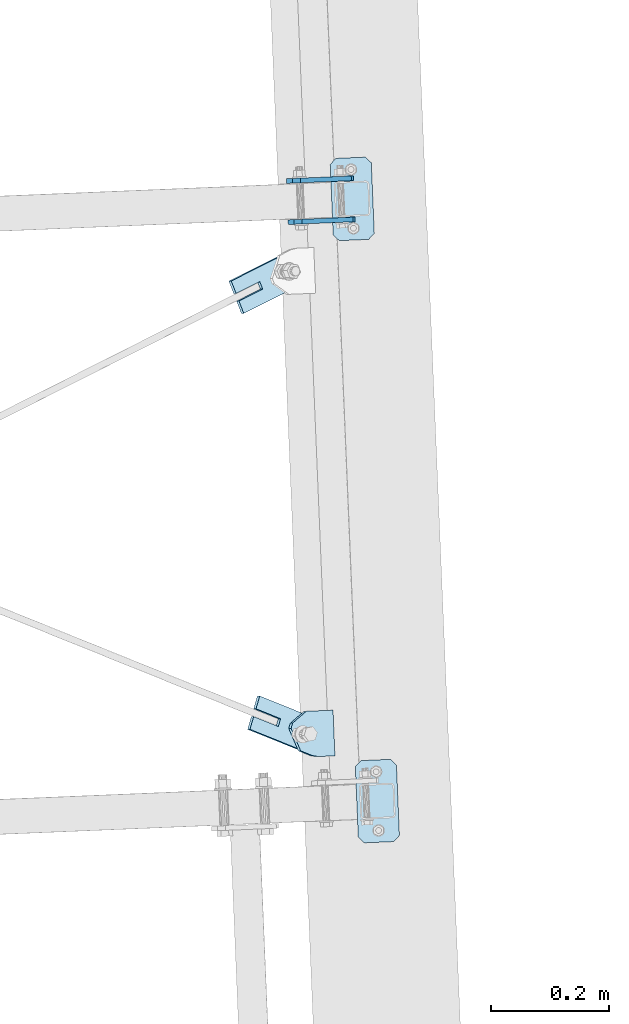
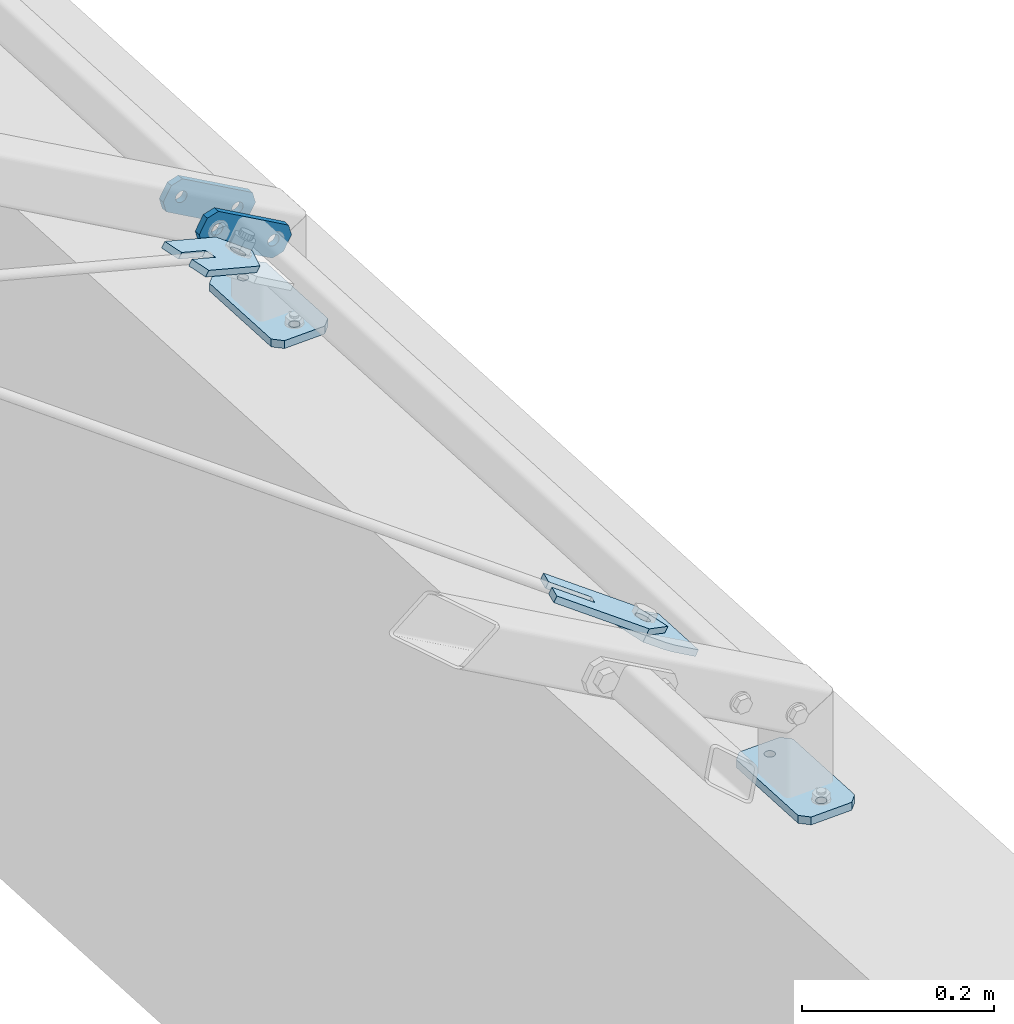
# One storey, part 39 of 288: 7 plates, 36 openings.
"""IFC2X3 building model written with IfcOpenShell, lengths in millimetres."""

from ifc_helpers import new_model, entity, si_unit, converted_unit, point, frame, frame_2d, origin, origin_with_axes, origin_2d_with_axis, place, context, project, spatial, polyline, circle_curve, line_curve, trimmed, segment, composite_curve, circle, outline, extrude, material, layer, layer_set, element, save


model = new_model("IFC2X3")

# Units and contexts
model_context = context("Model", 3, precision=1e-09, world=origin_with_axes())
ifc_project = project(units=[si_unit("LENGTHUNIT", "METRE", prefix="MILLI"), si_unit("AREAUNIT", "SQUARE_METRE"), si_unit("VOLUMEUNIT", "CUBIC_METRE"), converted_unit("PLANEANGLEUNIT", "DEGREE", entity("IfcPlaneAngleMeasure", 0.01745329), si_unit("PLANEANGLEUNIT", "RADIAN"), dimensions=[0, 0, 0, 0, 0, 0, 0])], contexts=[model_context])

# Site, building, storey
site_placement = place(None, origin_with_axes())
site = spatial("IfcSite", under=ifc_project, at=site_placement, Name="Remont ?wietlik?w nad MC w NCPP w Opolu", CompositionType="ELEMENT")
building_placement = place(site_placement, origin_with_axes())
building = spatial("IfcBuilding", under=site, at=building_placement, Name="Konstrukcja 1", CompositionType="ELEMENT")
storey_placement = place(building_placement, origin_with_axes())
storey = spatial("IfcBuildingStorey", under=building, at=storey_placement, Name="Default Storey", CompositionType="ELEMENT", Elevation=0.0)

# Plate, openings
ifc_material = material(Name="S235")
ifc_layer_1 = layer(ifc_material, 8.0)
ifc_layer_set_1 = layer_set([ifc_layer_1], Name="S235")
plate_1_placement = place(None, frame((1560.981685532, 5033.080915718, 149.694694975), z_axis=(-0.041662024, 0.999131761, 1.7472e-05), x_axis=(0.499566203, 0.020815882, 0.866025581)))
plate_1 = element("IfcPlate", 1, at=plate_1_placement, inside=storey, material=ifc_layer_set_1, Name="-", ObjectType="-", context=model_context, shape_type="SweptSolid", body=[
    extrude(outline(polyline([(0.0, 0.0), (40.0, 0.0), (40.0, 120.0), (0.0, 120.0), (0.0, 0.0)])), origin_with_axes(), (0.0, 0.0, 1.0), 8.0),
])
opening_1_placement = place(plate_1_placement, frame((0.0, 0.0, -0.01), z_axis=(0.0, 0.0, 1.0), x_axis=(1.0, 0.0, 0.0)))
element("IfcOpeningElement", 2, at=opening_1_placement, cuts=plate_1, ObjectType="Opening", context=model_context, shape_type="SweptSolid", body=[
    extrude(outline(composite_curve([segment(trimmed(line_curve((40.0, 0.0), (0.0, 1.0), 10.0), [point((40.0, 0.0))], [point((40.0, 10.0))], True, "CARTESIAN"), True, "CONTINUOUS"), segment(trimmed(circle_curve(frame_2d((30.0, 10.0), x_axis=(-1.0, 0.0)), 10.0), [point((40.0, 10.0))], [point((30.0, 0.0))], False, "CARTESIAN"), True, "CONTINUOUS"), segment(trimmed(line_curve((30.0, 0.0), (1.0, 0.0), 10.0), [point((30.0, 0.0))], [point((40.0, 0.0))], True, "CARTESIAN"), True, "CONTINUOUS")], self_intersect=False)), origin(), (0.0, 0.0, 1.0), 8.02),
])
opening_2_placement = place(plate_1_placement, frame((0.0, 0.0, -0.01), z_axis=(0.0, 0.0, 1.0), x_axis=(1.0, 0.0, 0.0)))
element("IfcOpeningElement", 3, at=opening_2_placement, cuts=plate_1, ObjectType="Opening", context=model_context, shape_type="SweptSolid", body=[
    extrude(outline(composite_curve([segment(trimmed(line_curve((0.0, 0.0), (1.0, 0.0), 10.0), [point((0.0, 0.0))], [point((10.0, 0.0))], True, "CARTESIAN"), True, "CONTINUOUS"), segment(trimmed(circle_curve(frame_2d((10.0, 10.0), x_axis=(-1.0, 0.0)), 10.0), [point((10.0, 0.0))], [point((0.0, 10.0))], False, "CARTESIAN"), True, "CONTINUOUS"), segment(trimmed(line_curve((0.0, 10.0), (0.0, -1.0), 10.0), [point((0.0, 10.0))], [point((0.0, 0.0))], True, "CARTESIAN"), True, "CONTINUOUS")], self_intersect=False)), origin(), (0.0, 0.0, 1.0), 8.02),
])
opening_3_placement = place(plate_1_placement, frame((0.0, 0.0, -0.01), z_axis=(0.0, 0.0, 1.0), x_axis=(1.0, 0.0, 0.0)))
element("IfcOpeningElement", 4, at=opening_3_placement, cuts=plate_1, ObjectType="Opening", context=model_context, shape_type="SweptSolid", body=[
    extrude(outline(composite_curve([segment(trimmed(line_curve((40.0, 120.0), (-1.0, 0.0), 10.0), [point((40.0, 120.0))], [point((30.0, 120.0))], True, "CARTESIAN"), True, "CONTINUOUS"), segment(trimmed(circle_curve(frame_2d((30.0, 110.0), x_axis=(-1.0, 0.0)), 10.0), [point((30.0, 120.0))], [point((40.0, 110.0))], False, "CARTESIAN"), True, "CONTINUOUS"), segment(trimmed(line_curve((40.0, 110.0), (0.0, 1.0), 10.0), [point((40.0, 110.0))], [point((40.0, 120.0))], True, "CARTESIAN"), True, "CONTINUOUS")], self_intersect=False)), origin(), (0.0, 0.0, 1.0), 8.02),
])
opening_4_placement = place(plate_1_placement, frame((0.0, 0.0, -0.01), z_axis=(0.0, 0.0, 1.0), x_axis=(1.0, 0.0, 0.0)))
element("IfcOpeningElement", 5, at=opening_4_placement, cuts=plate_1, ObjectType="Opening", context=model_context, shape_type="SweptSolid", body=[
    extrude(outline(composite_curve([segment(trimmed(line_curve((0.0, 120.0), (0.0, -1.0), 10.0), [point((0.0, 120.0))], [point((0.0, 110.0))], True, "CARTESIAN"), True, "CONTINUOUS"), segment(trimmed(circle_curve(frame_2d((10.0, 110.0), x_axis=(-1.0, 0.0)), 10.0), [point((0.0, 110.0))], [point((10.0, 120.0))], False, "CARTESIAN"), True, "CONTINUOUS"), segment(trimmed(line_curve((10.0, 120.0), (-1.0, 0.0), 10.0), [point((10.0, 120.0))], [point((0.0, 120.0))], True, "CARTESIAN"), True, "CONTINUOUS")], self_intersect=False)), origin(), (0.0, 0.0, 1.0), 8.02),
])
opening_5_placement = place(plate_1_placement, frame((19.99982953, 27.001003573, 8.499903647), z_axis=(-2.0054e-05, 4.2e-07, 1.0), x_axis=(1.0, 0.0, 2.0054e-05)))
element("IfcOpeningElement", 6, at=opening_5_placement, cuts=plate_1, ObjectType="Opening", context=model_context, shape_type="SweptSolid", body=[
    extrude(circle(Radius=7.001, at=frame_2d((-4e-09, -7.001), x_axis=(1.0, 0.0))), origin(), (0.0, 0.0, -1.0), 9.000033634),
])
opening_6_placement = place(plate_1_placement, frame((19.999829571, 107.001003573, 8.499870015), z_axis=(-2.0054e-05, 4.2e-07, 1.0), x_axis=(1.0, 0.0, 2.0054e-05)))
element("IfcOpeningElement", 7, at=opening_6_placement, cuts=plate_1, ObjectType="Opening", context=model_context, shape_type="SweptSolid", body=[
    extrude(circle(Radius=7.001, at=frame_2d((-4e-09, -7.001), x_axis=(1.0, 0.0))), origin(), (0.0, 0.0, -1.0), 9.000033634),
])

plate_2_placement = place(None, frame((1558.065343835, 5103.020138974, 149.69591799), z_axis=(-0.041662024, 0.999131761, 1.7472e-05), x_axis=(0.499566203, 0.020815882, 0.866025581)))
plate_2 = element("IfcPlate", 8, at=plate_2_placement, inside=storey, material=ifc_layer_set_1, Name="-", ObjectType="-", context=model_context, shape_type="SweptSolid", body=[
    extrude(outline(polyline([(0.0, 0.0), (40.0, 0.0), (40.0, 120.0), (0.0, 120.0), (0.0, 0.0)])), origin_with_axes(), (0.0, 0.0, 1.0), 8.0),
])
opening_7_placement = place(plate_2_placement, frame((0.0, 0.0, -0.01), z_axis=(0.0, 0.0, 1.0), x_axis=(1.0, 0.0, 0.0)))
element("IfcOpeningElement", 9, at=opening_7_placement, cuts=plate_2, ObjectType="Opening", context=model_context, shape_type="SweptSolid", body=[
    extrude(outline(composite_curve([segment(trimmed(line_curve((40.0, 0.0), (0.0, 1.0), 10.0), [point((40.0, 0.0))], [point((40.0, 10.0))], True, "CARTESIAN"), True, "CONTINUOUS"), segment(trimmed(circle_curve(frame_2d((30.0, 10.0), x_axis=(-1.0, 0.0)), 10.0), [point((40.0, 10.0))], [point((30.0, 0.0))], False, "CARTESIAN"), True, "CONTINUOUS"), segment(trimmed(line_curve((30.0, 0.0), (1.0, 0.0), 10.0), [point((30.0, 0.0))], [point((40.0, 0.0))], True, "CARTESIAN"), True, "CONTINUOUS")], self_intersect=False)), origin(), (0.0, 0.0, 1.0), 8.02),
])
opening_8_placement = place(plate_2_placement, frame((0.0, 0.0, -0.01), z_axis=(0.0, 0.0, 1.0), x_axis=(1.0, 0.0, 0.0)))
element("IfcOpeningElement", 10, at=opening_8_placement, cuts=plate_2, ObjectType="Opening", context=model_context, shape_type="SweptSolid", body=[
    extrude(outline(composite_curve([segment(trimmed(line_curve((0.0, 0.0), (1.0, 0.0), 10.0), [point((0.0, 0.0))], [point((10.0, 0.0))], True, "CARTESIAN"), True, "CONTINUOUS"), segment(trimmed(circle_curve(frame_2d((10.0, 10.0), x_axis=(-1.0, 0.0)), 10.0), [point((10.0, 0.0))], [point((0.0, 10.0))], False, "CARTESIAN"), True, "CONTINUOUS"), segment(trimmed(line_curve((0.0, 10.0), (0.0, -1.0), 10.0), [point((0.0, 10.0))], [point((0.0, 0.0))], True, "CARTESIAN"), True, "CONTINUOUS")], self_intersect=False)), origin(), (0.0, 0.0, 1.0), 8.02),
])
opening_9_placement = place(plate_2_placement, frame((0.0, 0.0, -0.01), z_axis=(0.0, 0.0, 1.0), x_axis=(1.0, 0.0, 0.0)))
element("IfcOpeningElement", 11, at=opening_9_placement, cuts=plate_2, ObjectType="Opening", context=model_context, shape_type="SweptSolid", body=[
    extrude(outline(composite_curve([segment(trimmed(line_curve((40.0, 120.0), (-1.0, 0.0), 10.0), [point((40.0, 120.0))], [point((30.0, 120.0))], True, "CARTESIAN"), True, "CONTINUOUS"), segment(trimmed(circle_curve(frame_2d((30.0, 110.0), x_axis=(-1.0, 0.0)), 10.0), [point((30.0, 120.0))], [point((40.0, 110.0))], False, "CARTESIAN"), True, "CONTINUOUS"), segment(trimmed(line_curve((40.0, 110.0), (0.0, 1.0), 10.0), [point((40.0, 110.0))], [point((40.0, 120.0))], True, "CARTESIAN"), True, "CONTINUOUS")], self_intersect=False)), origin(), (0.0, 0.0, 1.0), 8.02),
])
opening_10_placement = place(plate_2_placement, frame((0.0, 0.0, -0.01), z_axis=(0.0, 0.0, 1.0), x_axis=(1.0, 0.0, 0.0)))
element("IfcOpeningElement", 12, at=opening_10_placement, cuts=plate_2, ObjectType="Opening", context=model_context, shape_type="SweptSolid", body=[
    extrude(outline(composite_curve([segment(trimmed(line_curve((0.0, 120.0), (0.0, -1.0), 10.0), [point((0.0, 120.0))], [point((0.0, 110.0))], True, "CARTESIAN"), True, "CONTINUOUS"), segment(trimmed(circle_curve(frame_2d((10.0, 110.0), x_axis=(-1.0, 0.0)), 10.0), [point((0.0, 110.0))], [point((10.0, 120.0))], False, "CARTESIAN"), True, "CONTINUOUS"), segment(trimmed(line_curve((10.0, 120.0), (-1.0, 0.0), 10.0), [point((10.0, 120.0))], [point((0.0, 120.0))], True, "CARTESIAN"), True, "CONTINUOUS")], self_intersect=False)), origin(), (0.0, 0.0, 1.0), 8.02),
])
opening_11_placement = place(plate_2_placement, frame((19.99842578, 27.001033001, 8.499903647), z_axis=(-2.0054e-05, 4.2e-07, 1.0), x_axis=(1.0, 0.0, 2.0054e-05)))
element("IfcOpeningElement", 13, at=opening_11_placement, cuts=plate_2, ObjectType="Opening", context=model_context, shape_type="SweptSolid", body=[
    extrude(circle(Radius=7.001, at=frame_2d((-4e-09, -7.001), x_axis=(1.0, 0.0))), origin(), (0.0, 0.0, -1.0), 9.000033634),
])
opening_12_placement = place(plate_2_placement, frame((19.998425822, 107.001033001, 8.499870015), z_axis=(-2.0054e-05, 4.2e-07, 1.0), x_axis=(1.0, 0.0, 2.0054e-05)))
element("IfcOpeningElement", 14, at=opening_12_placement, cuts=plate_2, ObjectType="Opening", context=model_context, shape_type="SweptSolid", body=[
    extrude(circle(Radius=7.001, at=frame_2d((-4e-09, -7.001), x_axis=(1.0, 0.0))), origin(), (0.0, 0.0, -1.0), 9.000033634),
])

ifc_layer_2 = layer(ifc_material, 10.0)
ifc_layer_set_2 = layer_set([ifc_layer_2], Name="S235")
plate_3_placement = place(None, frame((1755.263633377, 3984.809017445, 10.000000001), z_axis=(0.0, 0.0, -1.0), x_axis=(-0.999131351, -0.041671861, 0.0)))
plate_3 = element("IfcPlate", 15, at=plate_3_placement, inside=storey, material=ifc_layer_set_2, Name="Baseplate", ObjectType="Baseplate", context=model_context, shape_type="SweptSolid", body=[
    extrude(outline(polyline([(0.0, 0.0), (70.0, 0.0), (70.0, 140.0), (0.0, 140.0), (0.0, 0.0)])), origin_with_axes(), (0.0, 0.0, 1.0), 10.0),
])
opening_13_placement = place(plate_3_placement, frame((0.0, 0.0, -0.01), z_axis=(0.0, 0.0, 1.0), x_axis=(1.0, 0.0, 0.0)))
element("IfcOpeningElement", 16, at=opening_13_placement, cuts=plate_3, ObjectType="Opening", context=model_context, shape_type="SweptSolid", body=[
    extrude(outline(composite_curve([segment(trimmed(line_curve((0.0, 140.0), (0.0, -1.0), 10.0), [point((0.0, 140.0))], [point((0.0, 130.0))], True, "CARTESIAN"), True, "CONTINUOUS"), segment(trimmed(circle_curve(frame_2d((10.0, 130.0), x_axis=(-1.0, 0.0)), 10.0), [point((0.0, 130.0))], [point((10.0, 140.0))], False, "CARTESIAN"), True, "CONTINUOUS"), segment(trimmed(line_curve((10.0, 140.0), (-1.0, 0.0), 10.0), [point((10.0, 140.0))], [point((0.0, 140.0))], True, "CARTESIAN"), True, "CONTINUOUS")], self_intersect=False)), origin(), (0.0, 0.0, 1.0), 10.02),
])
opening_14_placement = place(plate_3_placement, frame((0.0, 0.0, -0.01), z_axis=(0.0, 0.0, 1.0), x_axis=(1.0, 0.0, 0.0)))
element("IfcOpeningElement", 17, at=opening_14_placement, cuts=plate_3, ObjectType="Opening", context=model_context, shape_type="SweptSolid", body=[
    extrude(outline(composite_curve([segment(trimmed(line_curve((70.0, 140.0), (-1.0, 0.0), 10.0), [point((70.0, 140.0))], [point((60.0, 140.0))], True, "CARTESIAN"), True, "CONTINUOUS"), segment(trimmed(circle_curve(frame_2d((60.0, 130.0), x_axis=(-1.0, 0.0)), 10.0), [point((60.0, 140.0))], [point((70.0, 130.0))], False, "CARTESIAN"), True, "CONTINUOUS"), segment(trimmed(line_curve((70.0, 130.0), (0.0, 1.0), 10.0), [point((70.0, 130.0))], [point((70.0, 140.0))], True, "CARTESIAN"), True, "CONTINUOUS")], self_intersect=False)), origin(), (0.0, 0.0, 1.0), 10.02),
])
opening_15_placement = place(plate_3_placement, frame((0.0, 0.0, -0.01), z_axis=(0.0, 0.0, 1.0), x_axis=(1.0, 0.0, 0.0)))
element("IfcOpeningElement", 18, at=opening_15_placement, cuts=plate_3, ObjectType="Opening", context=model_context, shape_type="SweptSolid", body=[
    extrude(outline(composite_curve([segment(trimmed(line_curve((0.0, 0.0), (1.0, 0.0), 10.0), [point((0.0, 0.0))], [point((10.0, 0.0))], True, "CARTESIAN"), True, "CONTINUOUS"), segment(trimmed(circle_curve(frame_2d((10.0, 10.0), x_axis=(-1.0, 0.0)), 10.0), [point((10.0, 0.0))], [point((0.0, 10.0))], False, "CARTESIAN"), True, "CONTINUOUS"), segment(trimmed(line_curve((0.0, 10.0), (0.0, -1.0), 10.0), [point((0.0, 10.0))], [point((0.0, 0.0))], True, "CARTESIAN"), True, "CONTINUOUS")], self_intersect=False)), origin(), (0.0, 0.0, 1.0), 10.02),
])
opening_16_placement = place(plate_3_placement, frame((0.0, 0.0, -0.01), z_axis=(0.0, 0.0, 1.0), x_axis=(1.0, 0.0, 0.0)))
element("IfcOpeningElement", 19, at=opening_16_placement, cuts=plate_3, ObjectType="Opening", context=model_context, shape_type="SweptSolid", body=[
    extrude(outline(composite_curve([segment(trimmed(line_curve((70.0, 0.0), (0.0, 1.0), 10.0), [point((70.0, 0.0))], [point((70.0, 10.0))], True, "CARTESIAN"), True, "CONTINUOUS"), segment(trimmed(circle_curve(frame_2d((60.0, 10.0), x_axis=(-1.0, 0.0)), 10.0), [point((70.0, 10.0))], [point((60.0, 0.0))], False, "CARTESIAN"), True, "CONTINUOUS"), segment(trimmed(line_curve((60.0, 0.0), (1.0, 0.0), 10.0), [point((60.0, 0.0))], [point((70.0, 0.0))], True, "CARTESIAN"), True, "CONTINUOUS")], self_intersect=False)), origin(), (0.0, 0.0, 1.0), 10.02),
])
opening_17_placement = place(plate_3_placement, frame((35.0, 120.0, 10.5), z_axis=(0.0, 0.0, -1.0), x_axis=(1.0, 0.0, 0.0)))
element("IfcOpeningElement", 20, at=opening_17_placement, cuts=plate_3, ObjectType="Opening", context=model_context, shape_type="SweptSolid", body=[
    extrude(circle(Radius=6.001, at=origin_2d_with_axis()), origin(), (0.0, 0.0, 1.0), 11.0),
])
opening_18_placement = place(plate_3_placement, frame((35.0, 20.0, 10.5), z_axis=(0.0, 0.0, -1.0), x_axis=(1.0, 0.0, 0.0)))
element("IfcOpeningElement", 21, at=opening_18_placement, cuts=plate_3, ObjectType="Opening", context=model_context, shape_type="SweptSolid", body=[
    extrude(circle(Radius=6.001, at=origin_2d_with_axis()), origin(), (0.0, 0.0, 1.0), 11.0),
])

plate_4_placement = place(None, frame((1712.560214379, 5008.375589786, 10.000000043), z_axis=(0.0, 0.0, -1.0), x_axis=(-0.999131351, -0.041671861, 0.0)))
plate_4 = element("IfcPlate", 22, at=plate_4_placement, inside=storey, material=ifc_layer_set_2, Name="Baseplate", ObjectType="Baseplate", context=model_context, shape_type="SweptSolid", body=[
    extrude(outline(polyline([(0.0, 0.0), (70.0, 0.0), (70.0, 140.0), (0.0, 140.0), (0.0, 0.0)])), origin_with_axes(), (0.0, 0.0, 1.0), 10.0),
])
opening_19_placement = place(plate_4_placement, frame((0.0, 0.0, -0.01), z_axis=(0.0, 0.0, 1.0), x_axis=(1.0, 0.0, 0.0)))
element("IfcOpeningElement", 23, at=opening_19_placement, cuts=plate_4, ObjectType="Opening", context=model_context, shape_type="SweptSolid", body=[
    extrude(outline(composite_curve([segment(trimmed(line_curve((0.0, 140.0), (0.0, -1.0), 10.0), [point((0.0, 140.0))], [point((0.0, 130.0))], True, "CARTESIAN"), True, "CONTINUOUS"), segment(trimmed(circle_curve(frame_2d((10.0, 130.0), x_axis=(-1.0, 0.0)), 10.0), [point((0.0, 130.0))], [point((10.0, 140.0))], False, "CARTESIAN"), True, "CONTINUOUS"), segment(trimmed(line_curve((10.0, 140.0), (-1.0, 0.0), 10.0), [point((10.0, 140.0))], [point((0.0, 140.0))], True, "CARTESIAN"), True, "CONTINUOUS")], self_intersect=False)), origin(), (0.0, 0.0, 1.0), 10.02),
])
opening_20_placement = place(plate_4_placement, frame((0.0, 0.0, -0.01), z_axis=(0.0, 0.0, 1.0), x_axis=(1.0, 0.0, 0.0)))
element("IfcOpeningElement", 24, at=opening_20_placement, cuts=plate_4, ObjectType="Opening", context=model_context, shape_type="SweptSolid", body=[
    extrude(outline(composite_curve([segment(trimmed(line_curve((70.0, 140.0), (-1.0, 0.0), 10.0), [point((70.0, 140.0))], [point((60.0, 140.0))], True, "CARTESIAN"), True, "CONTINUOUS"), segment(trimmed(circle_curve(frame_2d((60.0, 130.0), x_axis=(-1.0, 0.0)), 10.0), [point((60.0, 140.0))], [point((70.0, 130.0))], False, "CARTESIAN"), True, "CONTINUOUS"), segment(trimmed(line_curve((70.0, 130.0), (0.0, 1.0), 10.0), [point((70.0, 130.0))], [point((70.0, 140.0))], True, "CARTESIAN"), True, "CONTINUOUS")], self_intersect=False)), origin(), (0.0, 0.0, 1.0), 10.02),
])
opening_21_placement = place(plate_4_placement, frame((0.0, 0.0, -0.01), z_axis=(0.0, 0.0, 1.0), x_axis=(1.0, 0.0, 0.0)))
element("IfcOpeningElement", 25, at=opening_21_placement, cuts=plate_4, ObjectType="Opening", context=model_context, shape_type="SweptSolid", body=[
    extrude(outline(composite_curve([segment(trimmed(line_curve((0.0, 0.0), (1.0, 0.0), 10.0), [point((0.0, 0.0))], [point((10.0, 0.0))], True, "CARTESIAN"), True, "CONTINUOUS"), segment(trimmed(circle_curve(frame_2d((10.0, 10.0), x_axis=(-1.0, 0.0)), 10.0), [point((10.0, 0.0))], [point((0.0, 10.0))], False, "CARTESIAN"), True, "CONTINUOUS"), segment(trimmed(line_curve((0.0, 10.0), (0.0, -1.0), 10.0), [point((0.0, 10.0))], [point((0.0, 0.0))], True, "CARTESIAN"), True, "CONTINUOUS")], self_intersect=False)), origin(), (0.0, 0.0, 1.0), 10.02),
])
opening_22_placement = place(plate_4_placement, frame((0.0, 0.0, -0.01), z_axis=(0.0, 0.0, 1.0), x_axis=(1.0, 0.0, 0.0)))
element("IfcOpeningElement", 26, at=opening_22_placement, cuts=plate_4, ObjectType="Opening", context=model_context, shape_type="SweptSolid", body=[
    extrude(outline(composite_curve([segment(trimmed(line_curve((70.0, 0.0), (0.0, 1.0), 10.0), [point((70.0, 0.0))], [point((70.0, 10.0))], True, "CARTESIAN"), True, "CONTINUOUS"), segment(trimmed(circle_curve(frame_2d((60.0, 10.0), x_axis=(-1.0, 0.0)), 10.0), [point((70.0, 10.0))], [point((60.0, 0.0))], False, "CARTESIAN"), True, "CONTINUOUS"), segment(trimmed(line_curve((60.0, 0.0), (1.0, 0.0), 10.0), [point((60.0, 0.0))], [point((70.0, 0.0))], True, "CARTESIAN"), True, "CONTINUOUS")], self_intersect=False)), origin(), (0.0, 0.0, 1.0), 10.02),
])
opening_23_placement = place(plate_4_placement, frame((35.0, 120.0, 10.5), z_axis=(0.0, 0.0, -1.0), x_axis=(1.0, 0.0, 0.0)))
element("IfcOpeningElement", 27, at=opening_23_placement, cuts=plate_4, ObjectType="Opening", context=model_context, shape_type="SweptSolid", body=[
    extrude(circle(Radius=6.001, at=origin_2d_with_axis()), origin(), (0.0, 0.0, 1.0), 11.0),
])
opening_24_placement = place(plate_4_placement, frame((35.0, 20.0, 10.5), z_axis=(0.0, 0.0, -1.0), x_axis=(1.0, 0.0, 0.0)))
element("IfcOpeningElement", 28, at=opening_24_placement, cuts=plate_4, ObjectType="Opening", context=model_context, shape_type="SweptSolid", body=[
    extrude(circle(Radius=6.001, at=origin_2d_with_axis()), origin(), (0.0, 0.0, 1.0), 11.0),
])

plate_5_placement = place(None, frame((1500.830986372, 4175.28056808, 242.178231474), z_axis=(-0.500767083, -0.020865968, -0.865330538), x_axis=(0.276563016, 0.943450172, -0.182796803)))
plate_5 = element("IfcPlate", 29, at=plate_5_placement, inside=storey, material=ifc_layer_set_1, Name="Tab_Plate#2", ObjectType="Tab_Plate#2", context=model_context, shape_type="SweptSolid", body=[
    extrude(outline(polyline([(0.0, 0.0), (60.0, 0.0), (60.0, 140.0), (0.0, 140.0), (0.0, 0.0)])), origin_with_axes(), (0.0, 0.0, 1.0), 8.0),
])
opening_25_placement = place(plate_5_placement, frame((0.0, 0.0, -0.01), z_axis=(0.0, 0.0, 1.0), x_axis=(1.0, 0.0, 0.0)))
element("IfcOpeningElement", 30, at=opening_25_placement, cuts=plate_5, ObjectType="Opening", context=model_context, shape_type="SweptSolid", body=[
    extrude(outline(composite_curve([segment(trimmed(line_curve((60.0, 140.0), (-1.0, 0.0), 30.0), [point((60.0, 140.0))], [point((30.0, 140.0))], True, "CARTESIAN"), True, "CONTINUOUS"), segment(trimmed(circle_curve(frame_2d((30.0, 110.0), x_axis=(-1.0, 0.0)), 30.0), [point((30.0, 140.0))], [point((60.0, 110.0))], False, "CARTESIAN"), True, "CONTINUOUS"), segment(trimmed(line_curve((60.0, 110.0), (0.0, 1.0), 30.0), [point((60.0, 110.0))], [point((60.0, 140.0))], True, "CARTESIAN"), True, "CONTINUOUS")], self_intersect=False)), origin(), (0.0, 0.0, 1.0), 8.02),
])
opening_26_placement = place(plate_5_placement, frame((0.0, 0.0, -0.01), z_axis=(0.0, 0.0, 1.0), x_axis=(1.0, 0.0, 0.0)))
element("IfcOpeningElement", 31, at=opening_26_placement, cuts=plate_5, ObjectType="Opening", context=model_context, shape_type="SweptSolid", body=[
    extrude(outline(composite_curve([segment(trimmed(line_curve((0.0, 140.0), (0.0, -1.0), 30.0), [point((0.0, 140.0))], [point((0.0, 110.0))], True, "CARTESIAN"), True, "CONTINUOUS"), segment(trimmed(circle_curve(frame_2d((30.0, 110.0), x_axis=(-1.0, 0.0)), 30.0), [point((0.0, 110.0))], [point((30.0, 140.0))], False, "CARTESIAN"), True, "CONTINUOUS"), segment(trimmed(line_curve((30.0, 140.0), (-1.0, 0.0), 30.0), [point((30.0, 140.0))], [point((0.0, 140.0))], True, "CARTESIAN"), True, "CONTINUOUS")], self_intersect=False)), origin(), (0.0, 0.0, 1.0), 8.02),
])
opening_27_placement = place(plate_5_placement, frame((0.0, 0.0, 8.1), z_axis=(0.0, 0.0, -1.0), x_axis=(0.931118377, -0.364717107, 0.0)))
element("IfcOpeningElement", 32, at=opening_27_placement, cuts=plate_5, ObjectType="Opening", context=model_context, shape_type="SweptSolid", body=[
    extrude(outline(polyline([(2.813854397, -55.876097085), (15.851373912, -60.982866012), (34.452675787, -13.493966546), (21.415156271, -8.387197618), (2.813854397, -55.876097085)])), origin(), (0.0, 0.0, 1.0), 8.2),
])
opening_28_placement = place(plate_5_placement, frame((30.0, 110.0, 8.5), z_axis=(0.0, 0.0, -1.0), x_axis=(0.0, -1.0, 0.0)))
element("IfcOpeningElement", 33, at=opening_28_placement, cuts=plate_5, ObjectType="Opening", context=model_context, shape_type="SweptSolid", body=[
    extrude(circle(Radius=9.001, at=origin_2d_with_axis()), origin(), (0.0, 0.0, 1.0), 9.0),
])

plate_6_placement = place(None, frame((1575.029332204, 4205.08515927, 180.03089187), z_axis=(0.500767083, 0.020865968, 0.865330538), x_axis=(-0.276563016, -0.943450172, 0.182796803)))
plate_6 = element("IfcPlate", 34, at=plate_6_placement, inside=storey, material=ifc_layer_set_1, Name="Gusset#2", ObjectType="Gusset#2", context=model_context, shape_type="SweptSolid", body=[
    extrude(outline(polyline([(0.0, 0.0), (60.0, 0.0), (60.0, 60.0), (45.818095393, 96.202515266), (-26.576593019, 67.842757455), (0.0, 0.0)])), origin_with_axes(), (0.0, 0.0, 1.0), 8.0),
])
opening_29_placement = place(plate_6_placement, frame((30.0, 30.0, -0.5), z_axis=(0.0, 0.0, 1.0), x_axis=(0.0, -1.0, 0.0)))
element("IfcOpeningElement", 35, at=opening_29_placement, cuts=plate_6, ObjectType="Opening", context=model_context, shape_type="SweptSolid", body=[
    extrude(circle(Radius=9.001, at=origin_2d_with_axis()), origin(), (0.0, 0.0, 1.0), 9.0),
])
opening_30_placement = place(plate_6_placement, frame((0.0, 0.0, -0.01), z_axis=(0.0, 0.0, 1.0), x_axis=(1.0, 0.0, 0.0)))
element("IfcOpeningElement", 36, at=opening_30_placement, cuts=plate_6, ObjectType="Opening", context=model_context, shape_type="SweptSolid", body=[
    extrude(outline(composite_curve([segment(trimmed(line_curve((60.0, 0.0), (0.0, 1.0), 30.0), [point((60.0, 0.0))], [point((60.0, 30.0))], True, "CARTESIAN"), True, "CONTINUOUS"), segment(trimmed(circle_curve(frame_2d((30.0, 30.0), x_axis=(-1.0, 0.0)), 30.0), [point((60.0, 30.0))], [point((30.0, 0.0))], False, "CARTESIAN"), True, "CONTINUOUS"), segment(trimmed(line_curve((30.0, 0.0), (1.0, 0.0), 30.0), [point((30.0, 0.0))], [point((60.0, 0.0))], True, "CARTESIAN"), True, "CONTINUOUS")], self_intersect=False)), origin(), (0.0, 0.0, 1.0), 8.02),
])
opening_31_placement = place(plate_6_placement, frame((0.0, 0.0, -0.01), z_axis=(0.0, 0.0, 1.0), x_axis=(1.0, 0.0, 0.0)))
element("IfcOpeningElement", 37, at=opening_31_placement, cuts=plate_6, ObjectType="Opening", context=model_context, shape_type="SweptSolid", body=[
    extrude(outline(composite_curve([segment(trimmed(line_curve((0.0, 0.0), (1.0, 0.0), 20.467615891), [point((0.0, 0.0))], [point((20.467615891, 0.0))], True, "CARTESIAN"), True, "CONTINUOUS"), segment(trimmed(circle_curve(frame_2d((20.467615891, 30.0), x_axis=(-1.0, 0.0)), 30.0), [point((20.467615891, 0.0))], [point((-7.465553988, 19.057513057))], False, "CARTESIAN"), True, "CONTINUOUS"), segment(trimmed(line_curve((-7.465553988, 19.057513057), (0.364749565, -0.931105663), 20.467615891), [point((-7.465553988, 19.057513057))], [point((0.0, 0.0))], True, "CARTESIAN"), True, "CONTINUOUS")], self_intersect=False)), origin(), (0.0, 0.0, 1.0), 8.02),
])
opening_32_placement = place(plate_6_placement, frame((0.0, 0.0, -0.01), z_axis=(0.0, 0.0, 1.0), x_axis=(1.0, 0.0, 0.0)))
element("IfcOpeningElement", 38, at=opening_32_placement, cuts=plate_6, ObjectType="Opening", context=model_context, shape_type="SweptSolid", body=[
    extrude(outline(composite_curve([segment(trimmed(line_curve((60.0, 60.0), (-0.364749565, 0.931105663), 5.666436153), [point((60.0, 60.0))], [point((57.933169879, 65.276050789))], True, "CARTESIAN"), True, "CONTINUOUS"), segment(trimmed(circle_curve(frame_2d((30.0, 54.333563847), x_axis=(-1.0, 0.0)), 30.0), [point((57.933169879, 65.276050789))], [point((60.0, 54.333563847))], False, "CARTESIAN"), True, "CONTINUOUS"), segment(trimmed(line_curve((60.0, 54.333563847), (0.0, 1.0), 5.666436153), [point((60.0, 54.333563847))], [point((60.0, 60.0))], True, "CARTESIAN"), True, "CONTINUOUS")], self_intersect=False)), origin(), (0.0, 0.0, 1.0), 8.02),
])

plate_7_placement = place(None, frame((1465.05168586, 4937.09239011, 235.268911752), z_axis=(0.500767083, 0.020865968, 0.865330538), x_axis=(0.354146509, -0.917144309, -0.182829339)))
plate_7 = element("IfcPlate", 39, at=plate_7_placement, inside=storey, material=ifc_layer_set_1, Name="Tab_Plate#2", ObjectType="Tab_Plate#2", context=model_context, shape_type="SweptSolid", body=[
    extrude(outline(polyline([(0.0, 0.0), (60.0, 0.0), (60.0, 140.0), (0.0, 140.0), (0.0, 0.0)])), origin_with_axes(), (0.0, 0.0, 1.0), 8.0),
])
opening_33_placement = place(plate_7_placement, frame((0.0, 0.0, -0.01), z_axis=(0.0, 0.0, 1.0), x_axis=(1.0, 0.0, 0.0)))
element("IfcOpeningElement", 40, at=opening_33_placement, cuts=plate_7, ObjectType="Opening", context=model_context, shape_type="SweptSolid", body=[
    extrude(outline(composite_curve([segment(trimmed(line_curve((60.0, 140.0), (-1.0, 0.0), 30.0), [point((60.0, 140.0))], [point((30.0, 140.0))], True, "CARTESIAN"), True, "CONTINUOUS"), segment(trimmed(circle_curve(frame_2d((30.0, 110.0), x_axis=(-1.0, 0.0)), 30.0), [point((30.0, 140.0))], [point((60.0, 110.0))], False, "CARTESIAN"), True, "CONTINUOUS"), segment(trimmed(line_curve((60.0, 110.0), (0.0, 1.0), 30.0), [point((60.0, 110.0))], [point((60.0, 140.0))], True, "CARTESIAN"), True, "CONTINUOUS")], self_intersect=False)), origin(), (0.0, 0.0, 1.0), 8.02),
])
opening_34_placement = place(plate_7_placement, frame((0.0, 0.0, -0.01), z_axis=(0.0, 0.0, 1.0), x_axis=(1.0, 0.0, 0.0)))
element("IfcOpeningElement", 41, at=opening_34_placement, cuts=plate_7, ObjectType="Opening", context=model_context, shape_type="SweptSolid", body=[
    extrude(outline(composite_curve([segment(trimmed(line_curve((0.0, 140.0), (0.0, -1.0), 30.0), [point((0.0, 140.0))], [point((0.0, 110.0))], True, "CARTESIAN"), True, "CONTINUOUS"), segment(trimmed(circle_curve(frame_2d((30.0, 110.0), x_axis=(-1.0, 0.0)), 30.0), [point((0.0, 110.0))], [point((30.0, 140.0))], False, "CARTESIAN"), True, "CONTINUOUS"), segment(trimmed(line_curve((30.0, 140.0), (-1.0, 0.0), 30.0), [point((30.0, 140.0))], [point((0.0, 140.0))], True, "CARTESIAN"), True, "CONTINUOUS")], self_intersect=False)), origin(), (0.0, 0.0, 1.0), 8.02),
])
opening_35_placement = place(plate_7_placement, frame((0.0, 0.0, 8.1), z_axis=(0.0, 0.0, -1.0), x_axis=(0.931092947, -0.364782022, 0.0)))
element("IfcOpeningElement", 42, at=opening_35_placement, cuts=plate_7, ObjectType="Opening", context=model_context, shape_type="SweptSolid", body=[
    extrude(outline(polyline([(2.809958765, -55.876293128), (15.84712221, -60.983971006), (34.451734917, -13.496368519), (21.414571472, -8.388690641), (2.809958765, -55.876293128)])), origin(), (0.0, 0.0, 1.0), 8.2),
])
opening_36_placement = place(plate_7_placement, frame((30.0, 110.0, 8.5), z_axis=(0.0, 0.0, -1.0), x_axis=(0.0, -1.0, 0.0)))
element("IfcOpeningElement", 43, at=opening_36_placement, cuts=plate_7, ObjectType="Opening", context=model_context, shape_type="SweptSolid", body=[
    extrude(circle(Radius=9.001, at=origin_2d_with_axis()), origin(), (0.0, 0.0, 1.0), 9.0),
])

save(model, "model.ifc")
